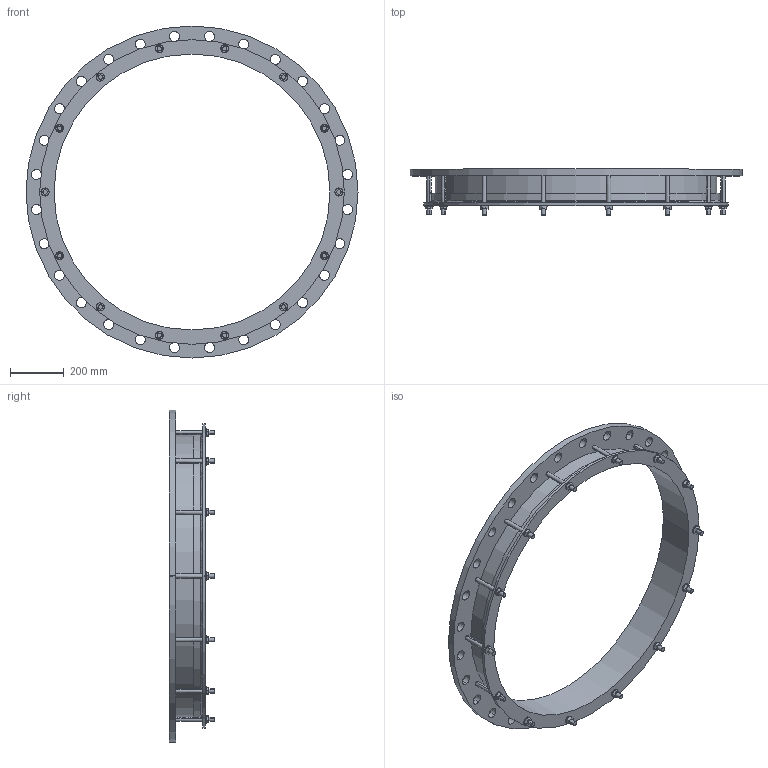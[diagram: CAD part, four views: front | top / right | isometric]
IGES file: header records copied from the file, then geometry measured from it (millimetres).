
Start section:  PTC IGES file: 1019x1000pn10.igs
Global section: file name: 1019x1000pn10.igs; native system: Creo Parametric by PTC Inc.; preprocessor: 2016130; author: mfairey; organization: Unknown; date: 20190117.105027; units: millimetre
Bounding box: 1230 x 169 x 1230 mm (x, y, z)
Surface area: 2007875 mm2 (no closed solid volume)
Topology: 0 solids, 0 shells, 284 faces, 1504 edges, 1504 vertices
Faces by surface type: revolution 154, bspline 130
